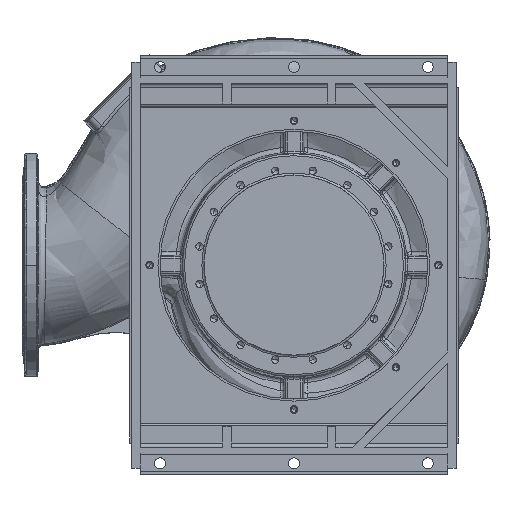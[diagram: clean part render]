
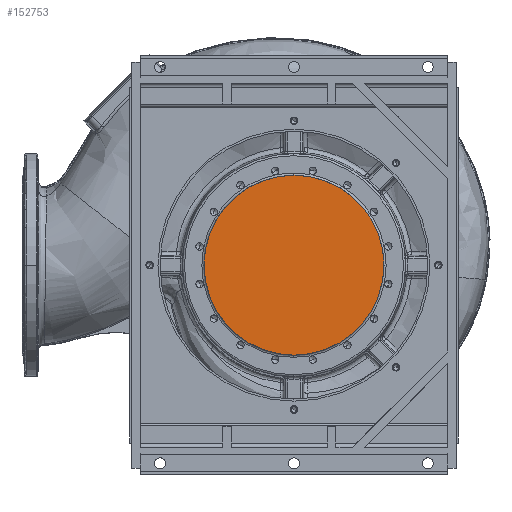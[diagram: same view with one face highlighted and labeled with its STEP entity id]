
A CAD part, front view. The second image highlights one B-rep face of the part: STEP entity #152753.
In plain terms, the highlighted planar face has unit normal (0, -1, 0).
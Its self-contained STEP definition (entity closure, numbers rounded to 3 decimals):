
#2902 = FACE_OUTER_BOUND ( 'NONE', #157324, .T. ) ;
#3131 = EDGE_CURVE ( 'NONE', #41411, #43778, #96581, .T. ) ;
#6321 = CARTESIAN_POINT ( 'NONE',  ( -215., -607., 0. ) ) ;
#13141 = CARTESIAN_POINT ( 'NONE',  ( 0., -607., -215. ) ) ;
#23299 = DIRECTION ( 'NONE',  ( 0., 0., 1. ) ) ;
#41411 = VERTEX_POINT ( 'NONE', #125831 ) ;
#43778 = VERTEX_POINT ( 'NONE', #13141 ) ;
#62126 = CARTESIAN_POINT ( 'NONE',  ( 0., -607., 0. ) ) ;
#76340 = EDGE_CURVE ( 'NONE', #43778, #41411, #127672, .T. ) ;
#79167 = DIRECTION ( 'NONE',  ( 0., 0., 1. ) ) ;
#89994 = PLANE ( 'NONE',  #103409 ) ;
#96581 = CIRCLE ( 'NONE', #208124, 215. ) ;
#103409 = AXIS2_PLACEMENT_3D ( 'NONE', #6321, #124747, #23299 ) ;
#124747 = DIRECTION ( 'NONE',  ( 0., -1., 0. ) ) ;
#125831 = CARTESIAN_POINT ( 'NONE',  ( 0., -607., 215. ) ) ;
#127672 = CIRCLE ( 'NONE', #173788, 215. ) ;
#152753 = ADVANCED_FACE ( 'NONE', ( #2902 ), #89994, .T. ) ;
#157324 = EDGE_LOOP ( 'NONE', ( #177306, #176471 ) ) ;
#173788 = AXIS2_PLACEMENT_3D ( 'NONE', #62126, #180718, #79167 ) ;
#176471 = ORIENTED_EDGE ( 'NONE', *, *, #3131, .T. ) ;
#177306 = ORIENTED_EDGE ( 'NONE', *, *, #76340, .T. ) ;
#180718 = DIRECTION ( 'NONE',  ( 0., -1., 0. ) ) ;
#208124 = AXIS2_PLACEMENT_3D ( 'NONE', #212107, #212150, #211891 ) ;
#211891 = DIRECTION ( 'NONE',  ( 0., 0., 1. ) ) ;
#212107 = CARTESIAN_POINT ( 'NONE',  ( 0., -607., 0. ) ) ;
#212150 = DIRECTION ( 'NONE',  ( 0., -1., 0. ) ) ;
